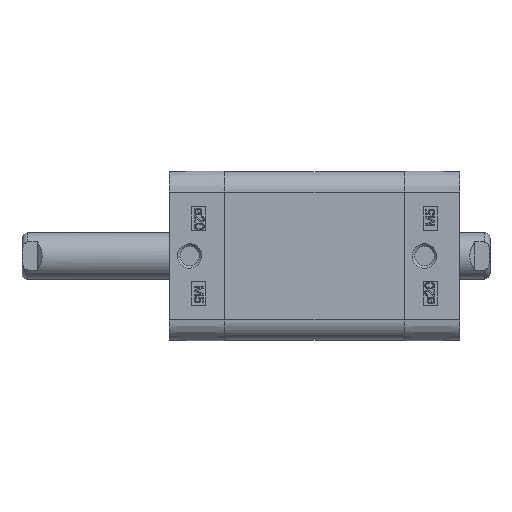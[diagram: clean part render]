
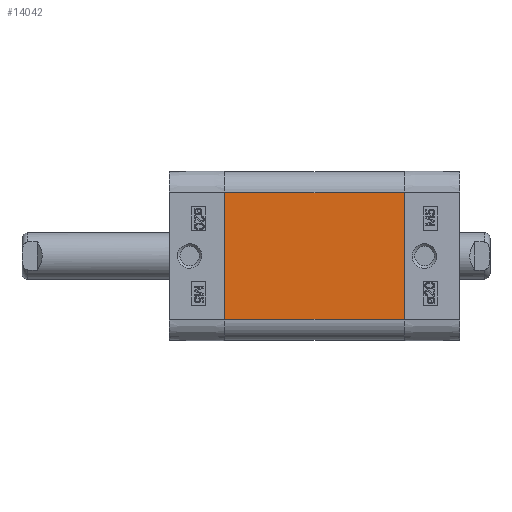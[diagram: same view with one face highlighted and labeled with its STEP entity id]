
A CAD part, left-side view. The second image highlights one B-rep face of the part: STEP entity #14042.
In plain terms, the highlighted planar face has unit normal (-1, 0, 0).
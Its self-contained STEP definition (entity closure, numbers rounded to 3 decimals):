
#787=PLANE('',#14945);
#1518=LINE('',#21438,#2358);
#1546=LINE('',#21551,#2386);
#1628=LINE('',#21771,#2468);
#1629=LINE('',#21773,#2469);
#2358=VECTOR('',#17210,1000.);
#2386=VECTOR('',#17296,1000.);
#2468=VECTOR('',#17542,1000.);
#2469=VECTOR('',#17545,1000.);
#5221=ORIENTED_EDGE('',*,*,#6573,.T.);
#5222=ORIENTED_EDGE('',*,*,#6739,.T.);
#5223=ORIENTED_EDGE('',*,*,#6740,.T.);
#5224=ORIENTED_EDGE('',*,*,#6629,.F.);
#6573=EDGE_CURVE('',#7631,#7632,#1518,.T.);
#6629=EDGE_CURVE('',#7631,#7687,#1546,.T.);
#6739=EDGE_CURVE('',#7632,#7742,#1628,.T.);
#6740=EDGE_CURVE('',#7742,#7687,#1629,.T.);
#7631=VERTEX_POINT('',#21439);
#7632=VERTEX_POINT('',#21440);
#7687=VERTEX_POINT('',#21552);
#7742=VERTEX_POINT('',#21770);
#8884=EDGE_LOOP('',(#5221,#5222,#5223,#5224));
#9656=FACE_BOUND('',#8884,.T.);
#14042=ADVANCED_FACE('',(#9656),#787,.T.);
#14945=AXIS2_PLACEMENT_3D('',#21772,#17543,#17544);
#17210=DIRECTION('',(0.,0.,-1.));
#17296=DIRECTION('',(0.,-1.,0.));
#17542=DIRECTION('',(0.,-1.,0.));
#17543=DIRECTION('',(-1.,0.,0.));
#17544=DIRECTION('',(0.,0.,1.));
#17545=DIRECTION('',(0.,0.,1.));
#21438=CARTESIAN_POINT('',(-18.,9.25,13.5));
#21439=CARTESIAN_POINT('',(-18.,9.25,13.5));
#21440=CARTESIAN_POINT('',(-18.,9.25,-13.5));
#21551=CARTESIAN_POINT('',(-18.,9.25,13.5));
#21552=CARTESIAN_POINT('',(-18.,-29.15,13.5));
#21770=CARTESIAN_POINT('',(-18.,-29.15,-13.5));
#21771=CARTESIAN_POINT('',(-18.,9.25,-13.5));
#21772=CARTESIAN_POINT('',(-18.,0.,13.5));
#21773=CARTESIAN_POINT('',(-18.,-29.15,-13.5));
